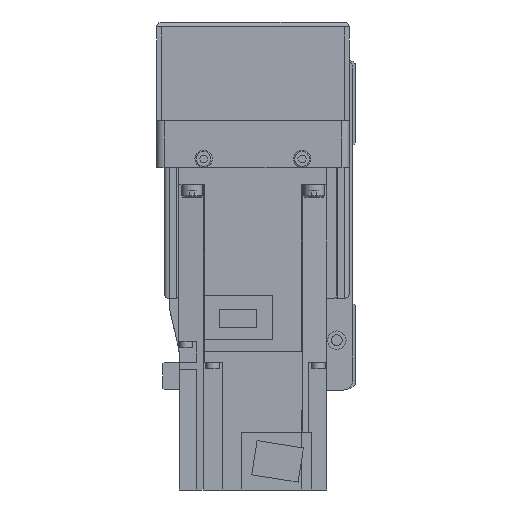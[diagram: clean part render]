
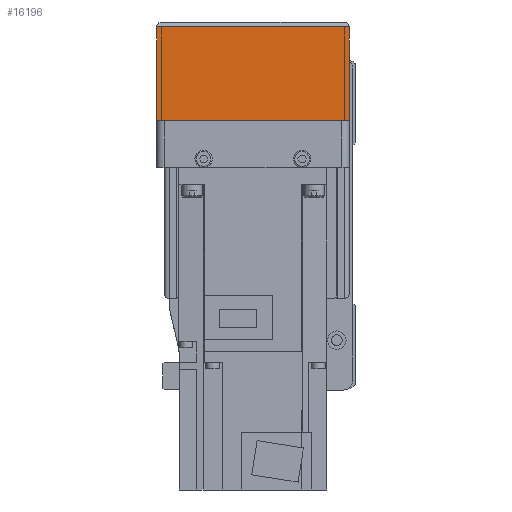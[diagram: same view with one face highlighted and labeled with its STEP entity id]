
A CAD part, left-side view. The second image highlights one B-rep face of the part: STEP entity #16196.
In plain terms, the highlighted planar face has unit normal (-1, 0, 0).
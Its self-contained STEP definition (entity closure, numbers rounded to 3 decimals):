
#2468=ORIENTED_EDGE('',*,*,#6531,.F.);
#2469=ORIENTED_EDGE('',*,*,#6532,.F.);
#2470=ORIENTED_EDGE('',*,*,#6533,.T.);
#2471=ORIENTED_EDGE('',*,*,#6534,.F.);
#6531=EDGE_CURVE('',#8661,#8652,#10330,.T.);
#6532=EDGE_CURVE('',#8678,#8661,#10331,.T.);
#6533=EDGE_CURVE('',#8678,#8679,#10332,.T.);
#6534=EDGE_CURVE('',#8652,#8679,#10333,.T.);
#8652=VERTEX_POINT('',#24930);
#8661=VERTEX_POINT('',#24948);
#8678=VERTEX_POINT('',#24996);
#8679=VERTEX_POINT('',#24998);
#10330=LINE('',#24994,#11873);
#10331=LINE('',#24995,#11874);
#10332=LINE('',#24997,#11875);
#10333=LINE('',#24999,#11876);
#11873=VECTOR('',#20020,1000.);
#11874=VECTOR('',#20021,1000.);
#11875=VECTOR('',#20022,1000.);
#11876=VECTOR('',#20023,1000.);
#13248=EDGE_LOOP('',(#2468,#2469,#2470,#2471));
#14453=FACE_BOUND('',#13248,.T.);
#15499=PLANE('',#17366);
#16196=ADVANCED_FACE('',(#14453),#15499,.F.);
#17366=AXIS2_PLACEMENT_3D('',#24993,#20018,#20019);
#20018=DIRECTION('',(1.,0.,0.));
#20019=DIRECTION('',(0.,0.,-1.));
#20020=DIRECTION('',(0.,-1.,0.));
#20021=DIRECTION('',(0.,0.,1.));
#20022=DIRECTION('',(0.,-1.,0.));
#20023=DIRECTION('',(0.,0.,-1.));
#24930=CARTESIAN_POINT('',(-158.,-39.,-12.1));
#24948=CARTESIAN_POINT('',(-158.,39.,-12.1));
#24993=CARTESIAN_POINT('',(-158.,36.,7.));
#24994=CARTESIAN_POINT('',(-158.,50.,-12.1));
#24995=CARTESIAN_POINT('',(-158.,39.,-50.));
#24996=CARTESIAN_POINT('',(-158.,39.,-50.));
#24997=CARTESIAN_POINT('',(-158.,40.,-50.));
#24998=CARTESIAN_POINT('',(-158.,-39.,-50.));
#24999=CARTESIAN_POINT('',(-158.,-39.,-12.1));
